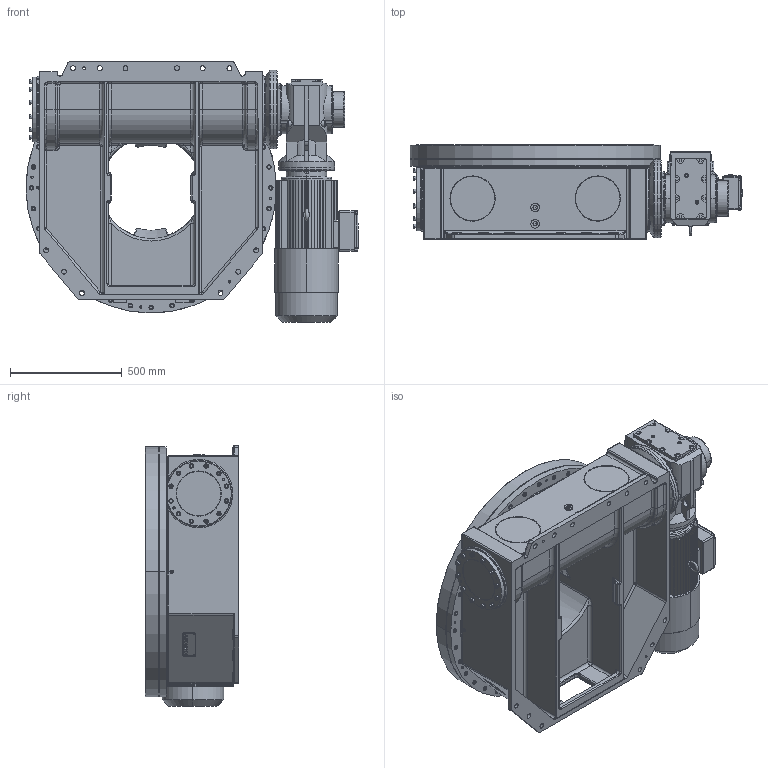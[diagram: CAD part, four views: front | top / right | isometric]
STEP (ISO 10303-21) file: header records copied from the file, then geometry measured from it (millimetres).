
FILE_DESCRIPTION((''),'2;1');
FILE_NAME('A6880','2009-07-08T',('mmueller'),('EXPERT Maschinenbau GmbH'),'PRO/ENGINEER BY PARAMETRIC TECHNOLOGY CORPORATION, 2007390','PRO/ENGINEER BY PARAMETRIC TECHNOLOGY CORPORATION, 2007390','');
FILE_SCHEMA(('CONFIG_CONTROL_DESIGN'));
Products named in the file (1): A6880
Bounding box: 1485.1 x 420 x 1167.5 mm (x, y, z)
Surface area: 7844084.5 mm2 (no closed solid volume)
Topology: 0 solids, 183 shells, 2086 faces, 6224 edges, 4297 vertices
Faces by surface type: plane 969, cylinder 615, cone 202, torus 199, bspline 83, sphere 18
Entity records: 75581 total; most frequent: CARTESIAN_POINT 18925, DIRECTION 12288, ORIENTED_EDGE 10635, EDGE_CURVE 6190, AXIS2_PLACEMENT_3D 4512, VERTEX_POINT 4295, VECTOR 3264, LINE 3264
